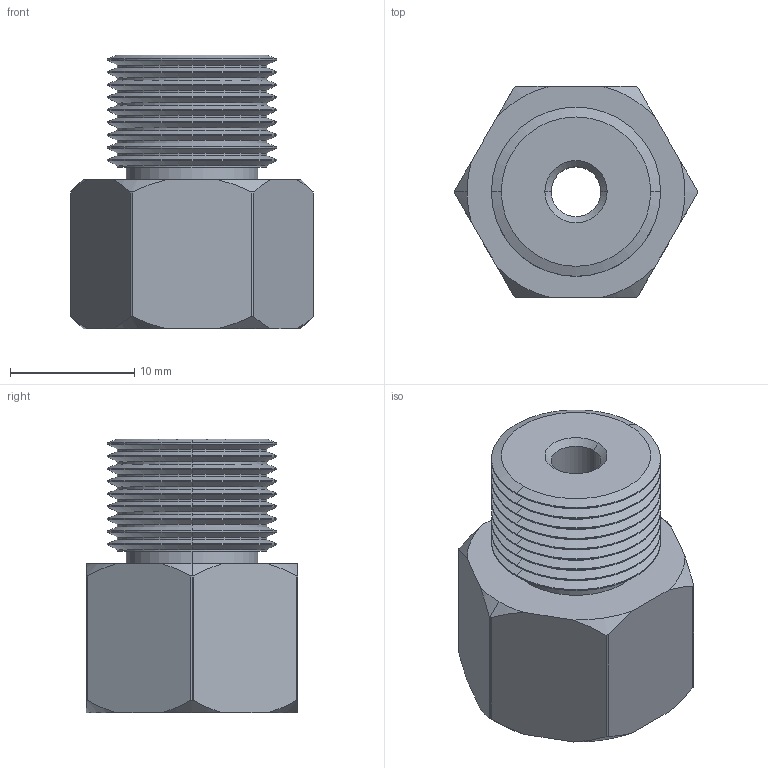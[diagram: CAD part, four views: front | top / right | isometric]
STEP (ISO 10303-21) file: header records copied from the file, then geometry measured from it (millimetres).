
FILE_DESCRIPTION (( 'STEP AP214' ), '1' );
FILE_NAME ('VM-G18F-G14M.STEP', '2023-03-07T08:53:30', ( 'Windows User' ), ( 'P R C' ), 'SwSTEP 2.0', 'SolidWorks 2019', '' );
FILE_SCHEMA (( 'AUTOMOTIVE_DESIGN' ));
Length unit declared in the file: millimetre
Products named in the file (1): VM-G18F-G14M
Bounding box: 19.5 x 17 x 22 mm (x, y, z)
Volume: 3433.1 mm3; surface area: 2387.7 mm2
Topology: 1 solids, 1 shells, 115 faces, 254 edges, 143 vertices
Faces by surface type: cone 56, cylinder 49, plane 10
Entity records: 3255 total; most frequent: CARTESIAN_POINT 641, DIRECTION 581, ORIENTED_EDGE 508, EDGE_CURVE 254, AXIS2_PLACEMENT_3D 235, VERTEX_POINT 143, CIRCLE 119, EDGE_LOOP 119
